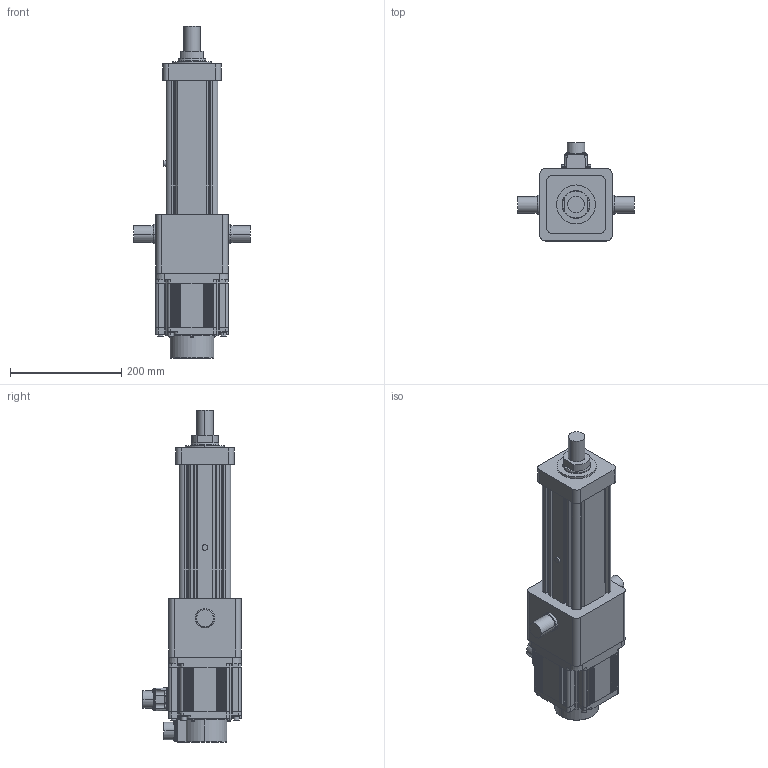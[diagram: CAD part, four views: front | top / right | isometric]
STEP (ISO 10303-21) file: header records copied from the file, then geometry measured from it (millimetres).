
FILE_DESCRIPTION (( 'STEP AP203' ), '1' );
FILE_NAME ('S4眻盄嫉粣假蚾.STEP', '2024-05-27T05:28:27', ( '' ), ( '' ), 'SwSTEP 2.0', 'SolidWorks 2018', '' );
FILE_SCHEMA (( 'CONFIG_CONTROL_DESIGN' ));
Length unit declared in the file: millimetre
Products named in the file (3): ECMA-FX1308ES-130框號系列機種-0.85KW高慣量系列; S4眻盄嫉粣; S4眻盄嫉粣假蚾
Assembly tree (2 placements, depth 2):
  S4眻盄嫉粣假蚾
    S4眻盄嫉粣
    ECMA-FX1308ES-130框號系列機種-0.85KW高慣量系列
Bounding box: 210 x 176.44 x 596.5 mm (x, y, z)
Volume: 4816592.7 mm3; surface area: 525959.2 mm2
Topology: 3 solids, 15 shells, 937 faces, 2228 edges, 1382 vertices
Faces by surface type: plane 407, cylinder 357, cone 105, torus 47, sphere 20, bspline 1
Entity records: 27932 total; most frequent: CARTESIAN_POINT 5408, DIRECTION 4926, ORIENTED_EDGE 4452, EDGE_CURVE 2226, AXIS2_PLACEMENT_3D 1839, VERTEX_POINT 1382, LINE 1248, VECTOR 1248
